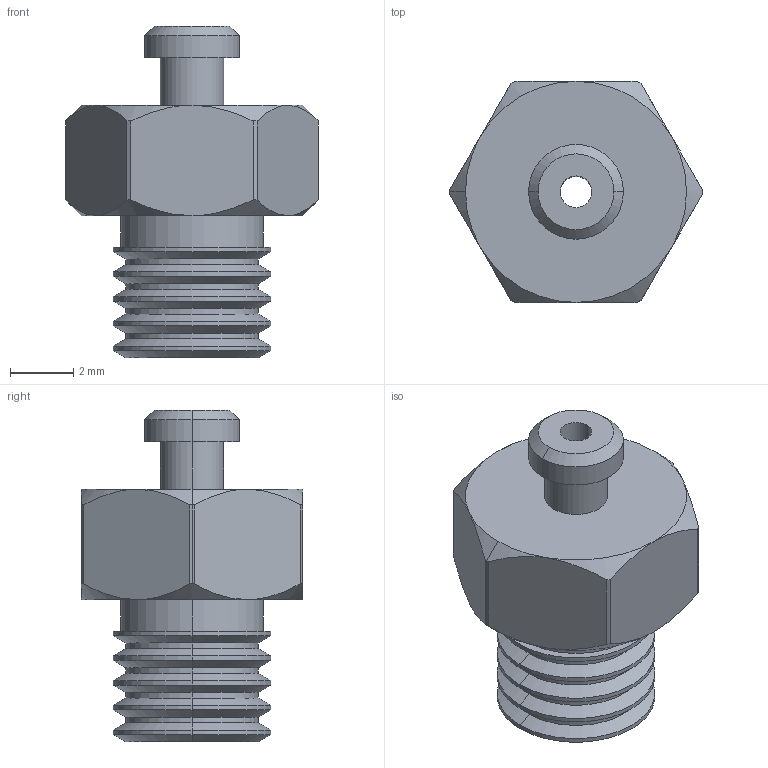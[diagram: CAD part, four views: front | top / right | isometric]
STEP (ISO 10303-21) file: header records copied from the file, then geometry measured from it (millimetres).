
FILE_DESCRIPTION (( 'STEP AP214' ), '1' );
FILE_NAME ('VM-14-M5.STEP', '2023-03-06T01:57:25', ( 'Windows User' ), ( 'P R C' ), 'SwSTEP 2.0', 'SolidWorks 2019', '' );
FILE_SCHEMA (( 'AUTOMOTIVE_DESIGN' ));
Length unit declared in the file: millimetre
Products named in the file (1): VM-14-M5
Bounding box: 8 x 7 x 10.5 mm (x, y, z)
Volume: 224.6 mm3; surface area: 316.5 mm2
Topology: 1 solids, 1 shells, 79 faces, 170 edges, 97 vertices
Faces by surface type: cone 34, cylinder 33, plane 12
Entity records: 2251 total; most frequent: CARTESIAN_POINT 491, DIRECTION 391, ORIENTED_EDGE 340, EDGE_CURVE 170, AXIS2_PLACEMENT_3D 165, VERTEX_POINT 97, EDGE_LOOP 85, CIRCLE 85
